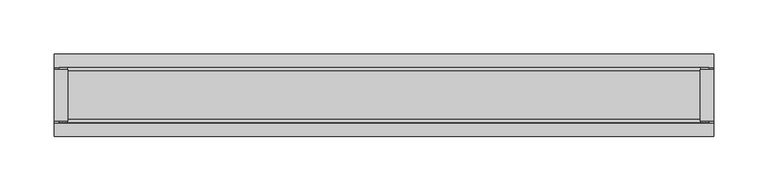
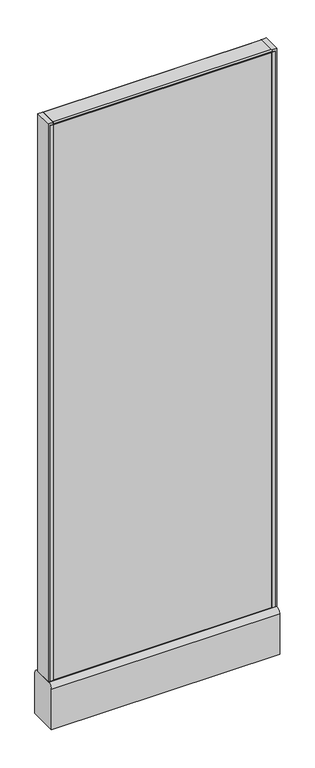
"""IFC4 building model written with IfcOpenShell, lengths in millimetres: furniture geometry."""

import ifcopenshell
import ifcopenshell.guid

model = None  # the IFC model being written
_history = None  # IfcOwnerHistory: only IFC2X3 demands one
_inside = {}  # id of a spatial element -> (the spatial element, [elements in it])
_under = {}  # id of a project, library or spatial element -> (it, [spatial elements below it])
_declared = {}  # id of a project -> (the project, [libraries it declares])
_typed = {}  # id of a type object -> (the type object, [elements of that type])
_made_of = {}  # id of a material, layer set ... -> (it, [elements and type objects made of it])


def new_model(schema):
    """Start an empty IFC model of exactly this schema.

    Asked for "IFC4X3", IfcOpenShell would pick the latest addendum, in which some entities
    have other attributes; the version numbers below select the first issue.
    IFC2X3 requires an IfcOwnerHistory on every rooted entity: one is made here for all.
    """
    global model, _history
    if schema == "IFC4X3":
        model = ifcopenshell.file(schema_version=(4, 3, 0, 0))
    else:
        model = ifcopenshell.file(schema=schema)
    _inside.clear()
    _under.clear()
    _declared.clear()
    _typed.clear()
    _made_of.clear()
    _history = None
    if model.schema == "IFC2X3":
        org = make("IfcOrganization", Name="unknown")
        user = make(
            "IfcPersonAndOrganization",
            ThePerson=make("IfcPerson", FamilyName="unknown"),
            TheOrganization=org,
        )
        app = make(
            "IfcApplication",
            ApplicationDeveloper=org,
            Version="unknown",
            ApplicationFullName="unknown",
            ApplicationIdentifier="unknown",
        )
        _history = make(
            "IfcOwnerHistory",
            OwningUser=user,
            OwningApplication=app,
            ChangeAction="ADDED",
            CreationDate=0,
        )
    return model


def make(cls, **values):
    """One entity of the class cls with the attributes given. An attribute that is None is left unset."""
    return model.create_entity(
        cls, **{name: value for name, value in values.items() if value is not None}
    )


def rooted(cls, **values):
    """An entity with a GlobalId (a new one), such as an element, a storey or a relation."""
    return make(cls, GlobalId=ifcopenshell.guid.new(), OwnerHistory=_history, **values)


def si_unit(unit_type, name, prefix=None):
    """IfcSIUnit, for example si_unit("LENGTHUNIT", "METRE", prefix="MILLI")."""
    return make("IfcSIUnit", UnitType=unit_type, Prefix=prefix, Name=name)


def assignment(units):
    """IfcUnitAssignment: the units of a project."""
    return None if units is None else make("IfcUnitAssignment", Units=units)


def point(xyz):
    """IfcCartesianPoint."""
    return None if xyz is None else make("IfcCartesianPoint", Coordinates=xyz)


def direction(xyz):
    """IfcDirection."""
    return None if xyz is None else make("IfcDirection", DirectionRatios=xyz)


def frame(location, z_axis=None, x_axis=None):
    """IfcAxis2Placement3D, a coordinate frame: its origin and axes. An axis left out is left unset."""
    return make(
        "IfcAxis2Placement3D",
        Location=point(location),
        Axis=direction(z_axis),
        RefDirection=direction(x_axis),
    )


def frame_2d(location, x_axis=None):
    """IfcAxis2Placement2D, a coordinate frame in the plane: its origin and x axis."""
    return make(
        "IfcAxis2Placement2D", Location=point(location), RefDirection=direction(x_axis)
    )


def origin():
    """The frame at (0, 0, 0) with its axes left unset."""
    return frame((0.0, 0.0, 0.0))


def place(relative_to, where):
    """IfcLocalPlacement: puts the frame where relative to a parent placement (None: the world)."""
    return make(
        "IfcLocalPlacement", PlacementRelTo=relative_to, RelativePlacement=where
    )


def context(
    kind, dimensions, precision=None, world=None, true_north=None, identifier=None
):
    """IfcGeometricRepresentationContext, for example the 3D "Model" context."""
    return make(
        "IfcGeometricRepresentationContext",
        ContextIdentifier=identifier,
        ContextType=kind,
        CoordinateSpaceDimension=dimensions,
        Precision=precision,
        WorldCoordinateSystem=world,
        TrueNorth=true_north,
    )


def project(units=None, contexts=None):
    """IfcProject with its units and contexts."""
    return rooted(
        "IfcProject",
        Name="project",
        RepresentationContexts=contexts,
        UnitsInContext=assignment(units),
    )


def spatial(cls, under=None, at=None, **own):
    """A site, building, storey or space (cls), placed at a placement, below another one or the project."""
    s = rooted(cls, ObjectPlacement=at, **own)
    if under is not None:
        _under.setdefault(under.id(), (under, []))[1].append(s)
    return s


def polyline(points):
    """IfcPolyline through the points."""
    return make("IfcPolyline", Points=[point(p) for p in points])


def circle_curve(where, radius):
    """IfcCircle in the frame where."""
    return make("IfcCircle", Position=where, Radius=radius)


def trimmed(basis, trim1, trim2, sense, master):
    """IfcTrimmedCurve: the piece of a basis curve between two trims."""
    return make(
        "IfcTrimmedCurve",
        BasisCurve=basis,
        Trim1=trim1,
        Trim2=trim2,
        SenseAgreement=sense,
        MasterRepresentation=master,
    )


def segment(curve, same_sense, transition):
    """IfcCompositeCurveSegment."""
    return make(
        "IfcCompositeCurveSegment",
        Transition=transition,
        SameSense=same_sense,
        ParentCurve=curve,
    )


def composite_curve(segments, self_intersect=None):
    """IfcCompositeCurve: segments joined end to end."""
    return make("IfcCompositeCurve", Segments=segments, SelfIntersect=self_intersect)


def outline(outer, holes=None, kind="AREA"):
    """IfcArbitraryClosedProfileDef: a profile drawn as a closed curve; with holes, ...WithVoids."""
    if holes is None:
        return make("IfcArbitraryClosedProfileDef", ProfileType=kind, OuterCurve=outer)
    return make(
        "IfcArbitraryProfileDefWithVoids",
        ProfileType=kind,
        OuterCurve=outer,
        InnerCurves=holes,
    )


def extrude(swept, where, along, depth):
    """IfcExtrudedAreaSolid: the profile swept, set in the frame where, extruded along a direction by depth."""
    return make(
        "IfcExtrudedAreaSolid",
        SweptArea=swept,
        Position=where,
        ExtrudedDirection=direction(along),
        Depth=depth,
    )


def shape(context_of_items, identifier, shape_type, items):
    """IfcShapeRepresentation: the items that make up one representation, for example the "Body"."""
    return make(
        "IfcShapeRepresentation",
        ContextOfItems=context_of_items,
        RepresentationIdentifier=identifier,
        RepresentationType=shape_type,
        Items=items,
    )


def source(mapping_origin, context_of_items, identifier, shape_type, items):
    """IfcRepresentationMap: a shape defined once, which mapped items show again and again."""
    return make(
        "IfcRepresentationMap",
        MappingOrigin=mapping_origin,
        MappedRepresentation=shape(context_of_items, identifier, shape_type, items),
    )


def transform(
    local_origin,
    x_axis=None,
    y_axis=None,
    z_axis=None,
    scale=None,
    scale2=None,
    scale3=None,
    uniform=True,
):
    """IfcCartesianTransformationOperator3D, or its non-uniform kind. x_axis, y_axis, z_axis: its Axis1, 2, 3."""
    if uniform:
        return make(
            "IfcCartesianTransformationOperator3D",
            Axis1=direction(x_axis),
            Axis2=direction(y_axis),
            LocalOrigin=point(local_origin),
            Scale=scale,
            Axis3=direction(z_axis),
        )
    return make(
        "IfcCartesianTransformationOperator3DnonUniform",
        Axis1=direction(x_axis),
        Axis2=direction(y_axis),
        LocalOrigin=point(local_origin),
        Scale=scale,
        Axis3=direction(z_axis),
        Scale2=scale2,
        Scale3=scale3,
    )


def mapped(mapping_source, mapping_target):
    """IfcMappedItem: shows the shape of a source again, moved by a transform."""
    return make(
        "IfcMappedItem", MappingSource=mapping_source, MappingTarget=mapping_target
    )


def made_of(thing, what):
    """Note that an element or type object is made of a material, layer set ...; save() writes the relation."""
    if what is not None:
        _made_of.setdefault(what.id(), (what, []))[1].append(thing)
    return thing


def element(
    cls,
    number,
    at=None,
    inside=None,
    cuts=None,
    type_object=None,
    material=None,
    context=None,
    identifier="Body",
    shape_type=None,
    held_by="IfcProductDefinitionShape",
    body=None,
    shapes=None,
    **own,
):
    """One element of the class cls, such as IfcWall. Its Tag is "e" and its number.

    at: its placement. inside: the storey or other place that contains it. cuts: it is an
    opening in that element (IfcRelVoidsElement). A single representation is given by context,
    identifier, shape_type and body (its items); several are given by shapes. held_by: the class
    of the entity that holds the representations. save() writes the other relations.
    """
    e = rooted(cls, Tag="e%d" % number, ObjectPlacement=at, **own)
    if body is not None:
        shapes = [shape(context, identifier, shape_type, body)]
    if shapes is not None:
        e.Representation = make(held_by, Representations=shapes)
    if inside is not None:
        _inside.setdefault(inside.id(), (inside, []))[1].append(e)
    if cuts is not None:
        rooted(
            "IfcRelVoidsElement", RelatingBuildingElement=cuts, RelatedOpeningElement=e
        )
    if type_object is not None:
        _typed.setdefault(type_object.id(), (type_object, []))[1].append(e)
    return made_of(e, material)


def aggregate(whole, parts):
    """IfcRelAggregates: a whole, such as a stair, and the parts it consists of."""
    return rooted("IfcRelAggregates", RelatingObject=whole, RelatedObjects=parts)


def save(model, path):
    """Write the relations noted so far, then the file.

    IfcRelAggregates (storeys below a building ...), IfcRelContainedInSpatialStructure (elements
    in a storey), IfcRelDefinesByType, IfcRelAssociatesMaterial and IfcRelDeclares: one each for
    every whole, place, type object, material and project.
    """
    for whole, parts in _under.values():
        aggregate(whole, parts)
    for where, things in _inside.values():
        rooted(
            "IfcRelContainedInSpatialStructure",
            RelatedElements=things,
            RelatingStructure=where,
        )
    for kind, things in _typed.values():
        rooted("IfcRelDefinesByType", RelatedObjects=things, RelatingType=kind)
    for what, things in _made_of.values():
        rooted("IfcRelAssociatesMaterial", RelatedObjects=things, RelatingMaterial=what)
    for by, libraries in _declared.values():
        rooted("IfcRelDeclares", RelatingContext=by, RelatedDefinitions=libraries)
    model.write(path)


def plane_surface(at):
    """IfcPlane: the flat surface through the origin of the frame at, square to its z axis."""
    return make("IfcPlane", Position=at)


def cylinder_surface(at, radius):
    """IfcCylindricalSurface: all points at the distance radius from the z axis of the frame at."""
    return make("IfcCylindricalSurface", Position=at, Radius=radius)


def advanced_brep(points, edges, surfaces, faces):
    """IfcAdvancedBrep: a solid bounded by faces that lie on surfaces and meet in shared edges.

    An edge is (start, end): straight between two places in points (the first is 0);
    or (start, end, curve); or (start, end, curve, False) where it runs against its curve.
    A face is (place in surfaces, loops), or (place, loops, False) where it looks against
    its surface's normal. A loop lists edges by number (the first is 1), with a minus sign
    where the edge is run from its end to its start. The first loop is the outer one.
    """
    corners = [point(p) for p in points]
    vertices = [make("IfcVertexPoint", VertexGeometry=c) for c in corners]
    made = []
    for start, end, *more in edges:
        made.append(
            make(
                "IfcEdgeCurve",
                EdgeStart=vertices[start],
                EdgeEnd=vertices[end],
                EdgeGeometry=more[0] if more else make("IfcPolyline", Points=[corners[start], corners[end]]),
                SameSense=more[1] if len(more) > 1 else True,
            )
        )
    hull = []
    for where, loops, *sense in faces:
        bounds = []
        for j, loop in enumerate(loops):
            ring = [make("IfcOrientedEdge", EdgeElement=made[abs(k) - 1], Orientation=k > 0) for k in loop]
            bounds.append(
                make(
                    "IfcFaceOuterBound" if j == 0 else "IfcFaceBound",
                    Bound=make("IfcEdgeLoop", EdgeList=ring),
                    Orientation=True,
                )
            )
        hull.append(make("IfcAdvancedFace", Bounds=bounds, FaceSurface=surfaces[where], SameSense=sense[0] if sense else True))
    return make("IfcAdvancedBrep", Outer=make("IfcClosedShell", CfsFaces=hull))


def furniture_8e6c5b72(model_context):
    return source(origin(), model_context, "Body", "SolidModel", [
        advanced_brep(
        [(247.65, 0.0, 0.0), (273.05, 0.0, 0.0), (260.35, 0.0, 0.0), (247.65, 0.0, 4.7625), (273.05, 0.0, 4.7625), (254.0, 0.0, 4.7625), (266.7, 0.0, 4.7625), (254.0, 0.0, 111.125), (266.7, 0.0, 111.125), (260.35, 0.0, 111.125)],
        [
            (0, 1, circle_curve(frame((260.35, 0.0, 0.0), z_axis=(0.0, 0.0, -1.0), x_axis=(1.0, 0.0, 0.0)), 12.7)),
            (1, 2),
            (2, 0),
            (1, 0, circle_curve(frame((260.35, 0.0, 0.0), z_axis=(0.0, 0.0, -1.0), x_axis=(1.0, 0.0, 0.0)), 12.7)),
            (3, 4, circle_curve(frame((260.35, 0.0, 4.7625), z_axis=(0.0, 0.0, -1.0), x_axis=(1.0, 0.0, 0.0)), 12.7)),
            (4, 1),
            (0, 3),
            (4, 3, circle_curve(frame((260.35, 0.0, 4.7625), z_axis=(0.0, 0.0, -1.0), x_axis=(1.0, 0.0, 0.0)), 12.7)),
            (5, 6, circle_curve(frame((260.35, 0.0, 4.7625), z_axis=(0.0, 0.0, -1.0), x_axis=(1.0, 0.0, 0.0)), 6.35)),
            (6, 4),
            (3, 5),
            (6, 5, circle_curve(frame((260.35, 0.0, 4.7625), z_axis=(0.0, 0.0, -1.0), x_axis=(1.0, 0.0, 0.0)), 6.35)),
            (7, 8, circle_curve(frame((260.35, 0.0, 111.125), z_axis=(0.0, 0.0, -1.0), x_axis=(1.0, 0.0, 0.0)), 6.35)),
            (8, 6),
            (5, 7),
            (8, 7, circle_curve(frame((260.35, 0.0, 111.125), z_axis=(0.0, 0.0, -1.0), x_axis=(1.0, 0.0, 0.0)), 6.35)),
            (9, 8),
            (7, 9),
        ],
        [
            plane_surface(frame((260.35, 0.0, 0.0), z_axis=(0.0, 0.0, -1.0), x_axis=(1.0, 0.0, 0.0))),
            cylinder_surface(frame((260.35, 0.0, 114.882153), z_axis=(0.0, 0.0, 1.0), x_axis=(1.0, 0.0, 0.0)), 12.7),
            plane_surface(frame((260.35, 0.0, 4.7625), z_axis=(0.0, 0.0, 1.0), x_axis=(1.0, 0.0, 0.0))),
            cylinder_surface(frame((260.35, 0.0, 114.882153), z_axis=(0.0, 0.0, 1.0), x_axis=(1.0, 0.0, 0.0)), 6.35),
            plane_surface(frame((260.35, 0.0, 111.125), z_axis=(0.0, 0.0, 1.0), x_axis=(1.0, 0.0, 0.0))),
        ],
        [
            (0, [[1, 2, 3]]),
            (0, [[4, -3, -2]]),
            (1, [[5, 6, -1, 7]]),
            (1, [[8, -7, -4, -6]]),
            (2, [[9, 10, -5, 11]]),
            (2, [[12, -11, -8, -10]]),
            (3, [[13, 14, -9, 15]]),
            (3, [[16, -15, -12, -14]]),
            (4, [[17, -13, 18]]),
            (4, [[-18, -16, -17]]),
        ],
    ),
        advanced_brep(
        [(-273.05, 0.0, 4.7625), (-247.65, 0.0, 4.7625), (-247.65, 0.0, 0.0), (-273.05, 0.0, 0.0), (-266.7, 0.0, 4.7625), (-254.0, 0.0, 4.7625), (-266.7, 0.0, 111.125), (-254.0, 0.0, 111.125), (-260.35, 0.0, 111.125), (-260.35, 0.0, 0.0)],
        [
            (0, 1, circle_curve(frame((-260.35, 0.0, 4.7625), z_axis=(0.0, 0.0, -1.0), x_axis=(1.0, 0.0, 0.0)), 12.7)),
            (1, 2),
            (2, 3, circle_curve(frame((-260.35, 0.0, 0.0), z_axis=(0.0, 0.0, 1.0), x_axis=(1.0, 0.0, 0.0)), 12.7)),
            (3, 0),
            (1, 0, circle_curve(frame((-260.35, 0.0, 4.7625), z_axis=(0.0, 0.0, -1.0), x_axis=(1.0, 0.0, 0.0)), 12.7)),
            (3, 2, circle_curve(frame((-260.35, 0.0, 0.0), z_axis=(0.0, 0.0, 1.0), x_axis=(1.0, 0.0, 0.0)), 12.7)),
            (4, 5, circle_curve(frame((-260.35, 0.0, 4.7625), z_axis=(0.0, 0.0, -1.0), x_axis=(1.0, 0.0, 0.0)), 6.35)),
            (5, 1),
            (0, 4),
            (5, 4, circle_curve(frame((-260.35, 0.0, 4.7625), z_axis=(0.0, 0.0, -1.0), x_axis=(1.0, 0.0, 0.0)), 6.35)),
            (6, 7, circle_curve(frame((-260.35, 0.0, 111.125), z_axis=(0.0, 0.0, -1.0), x_axis=(1.0, 0.0, 0.0)), 6.35)),
            (7, 5),
            (4, 6),
            (7, 6, circle_curve(frame((-260.35, 0.0, 111.125), z_axis=(0.0, 0.0, -1.0), x_axis=(1.0, 0.0, 0.0)), 6.35)),
            (8, 7),
            (6, 8),
            (2, 9),
            (9, 3),
        ],
        [
            cylinder_surface(frame((-260.35, 0.0, 123.825), z_axis=(0.0, 0.0, 1.0), x_axis=(1.0, 0.0, 0.0)), 12.7),
            plane_surface(frame((-260.35, 0.0, 4.7625), z_axis=(0.0, 0.0, 1.0), x_axis=(1.0, 0.0, 0.0))),
            cylinder_surface(frame((-260.35, 0.0, 123.825), z_axis=(0.0, 0.0, 1.0), x_axis=(1.0, 0.0, 0.0)), 6.35),
            plane_surface(frame((-260.35, 0.0, 111.125), z_axis=(0.0, 0.0, 1.0), x_axis=(1.0, 0.0, 0.0))),
            plane_surface(frame((-260.35, 0.0, 0.0), z_axis=(0.0, 0.0, -1.0), x_axis=(1.0, 0.0, 0.0))),
        ],
        [
            (0, [[1, 2, 3, 4]]),
            (0, [[5, -4, 6, -2]]),
            (1, [[7, 8, -1, 9]]),
            (1, [[10, -9, -5, -8]]),
            (2, [[11, 12, -7, 13]]),
            (2, [[14, -13, -10, -12]]),
            (3, [[15, -11, 16]]),
            (3, [[-16, -14, -15]]),
            (4, [[-3, 17, 18]]),
            (4, [[-6, -18, -17]]),
        ],
    ),
        extrude(outline(polyline([(-304.8, 23.8125), (-292.1, 23.8125), (-292.1, -23.8125), (-304.8, -23.8125), (-304.8, 23.8125)])), frame((0.0, 0.0, 136.525), z_axis=(0.0, 0.0, 1.0), x_axis=(1.0, 0.0, 0.0)), (0.0, 0.0, 1.0), 1574.8),
        extrude(outline(polyline([(292.1, -23.8125), (292.1, 23.8125), (304.8, 23.8125), (304.8, -23.8125), (292.1, -23.8125)])), frame((0.0, 0.0, 136.525), z_axis=(0.0, 0.0, 1.0), x_axis=(1.0, 0.0, 0.0)), (0.0, 0.0, 1.0), 1574.8),
        extrude(outline(polyline([(-292.1, 25.4), (-292.1, 23.8125), (-300.0375, 23.8125), (-300.0375, 25.4), (-292.1, 25.4)])), frame((0.0, 0.0, 136.525), z_axis=(0.0, 0.0, 1.0), x_axis=(1.0, 0.0, 0.0)), (0.0, 0.0, 1.0), 1568.45),
        extrude(outline(polyline([(-292.1, -25.4), (-300.0375, -25.4), (-300.0375, -23.8125), (-292.1, -23.8125), (-292.1, -25.4)])), frame((0.0, 0.0, 136.525), z_axis=(0.0, 0.0, 1.0), x_axis=(1.0, 0.0, 0.0)), (0.0, 0.0, 1.0), 1568.45),
        extrude(outline(polyline([(300.0375, 23.8125), (292.1, 23.8125), (292.1, 25.4), (300.0375, 25.4), (300.0375, 23.8125)])), frame((0.0, 0.0, 136.525), z_axis=(0.0, 0.0, 1.0), x_axis=(1.0, 0.0, 0.0)), (0.0, 0.0, 1.0), 1568.45),
        extrude(outline(polyline([(292.1, -25.4), (292.1, -23.8125), (300.0375, -23.8125), (300.0375, -25.4), (292.1, -25.4)])), frame((0.0, 0.0, 136.525), z_axis=(0.0, 0.0, 1.0), x_axis=(1.0, 0.0, 0.0)), (0.0, 0.0, 1.0), 1568.45),
        extrude(outline(composite_curve([segment(trimmed(circle_curve(frame_2d((22.225, 1708.15)), 3.175), [point((22.225, 1711.325))], [point((25.4, 1708.15))], False, "CARTESIAN"), True, "CONTINUOUS"), segment(polyline([(25.4, 1708.15), (25.4, 1704.975), (-25.4, 1704.975), (-25.4, 1708.15)]), True, "CONTINUOUS"), segment(trimmed(circle_curve(frame_2d((-22.225, 1708.15)), 3.175), [point((-25.4, 1708.15))], [point((-22.225, 1711.325))], False, "CARTESIAN"), True, "CONTINUOUS"), segment(polyline([(-22.225, 1711.325), (22.225, 1711.325)]), True, "CONTINUOUS")], self_intersect=False)), frame((-292.1, 0.0, 0.0), z_axis=(1.0, 0.0, 0.0), x_axis=(0.0, 1.0, 0.0)), (0.0, 0.0, 1.0), 584.2),
        extrude(outline(composite_curve([segment(trimmed(circle_curve(frame_2d((25.4, 123.825)), 12.7), [point((25.4, 136.525))], [point((38.1, 123.825))], False, "CARTESIAN"), True, "CONTINUOUS"), segment(polyline([(38.1, 123.825), (38.1, 9.525), (-38.1, 9.525), (-38.1, 123.825)]), True, "CONTINUOUS"), segment(trimmed(circle_curve(frame_2d((-25.4, 123.825)), 12.7), [point((-38.1, 123.825))], [point((-25.4, 136.525))], False, "CARTESIAN"), True, "CONTINUOUS"), segment(polyline([(-25.4, 136.525), (25.4, 136.525)]), True, "CONTINUOUS")], self_intersect=False)), frame((-304.8, 0.0, 0.0), z_axis=(1.0, 0.0, 0.0), x_axis=(0.0, 1.0, 0.0)), (0.0, 0.0, 1.0), 609.6),
        extrude(outline(polyline([(292.1, 23.8125), (292.1, -23.8125), (-292.1, -23.8125), (-292.1, 23.8125), (292.1, 23.8125)])), frame((0.0, 0.0, 136.525), z_axis=(0.0, 0.0, 1.0), x_axis=(1.0, 0.0, 0.0)), (0.0, 0.0, 1.0), 1568.45),
    ])


if __name__ == "__main__":
    model = new_model("IFC4")
    model_context = context("Model", 3, world=origin())
    ifc_project = project(units=[si_unit("LENGTHUNIT", "METRE", prefix="MILLI")], contexts=[model_context])
    site = spatial("IfcSite", under=ifc_project)
    building = spatial("IfcBuilding", under=site)
    placement = place(None, origin())
    furniture_shape = furniture_8e6c5b72(model_context)
    element("IfcFurniture", 1, ObjectType="HermanMiller_ActionOffice_A1110_Hard-SurfacedPanelStandardBase : 67\"H x 24\"W-N", at=placement, inside=building, context=model_context, shape_type="MappedRepresentation", body=[
        mapped(furniture_shape, transform((0.0, 0.0, 0.0), x_axis=(1.0, 0.0, 0.0), y_axis=(0.0, 1.0, 0.0), z_axis=(0.0, 0.0, 1.0))),
    ])
    save(model, "model.ifc")
